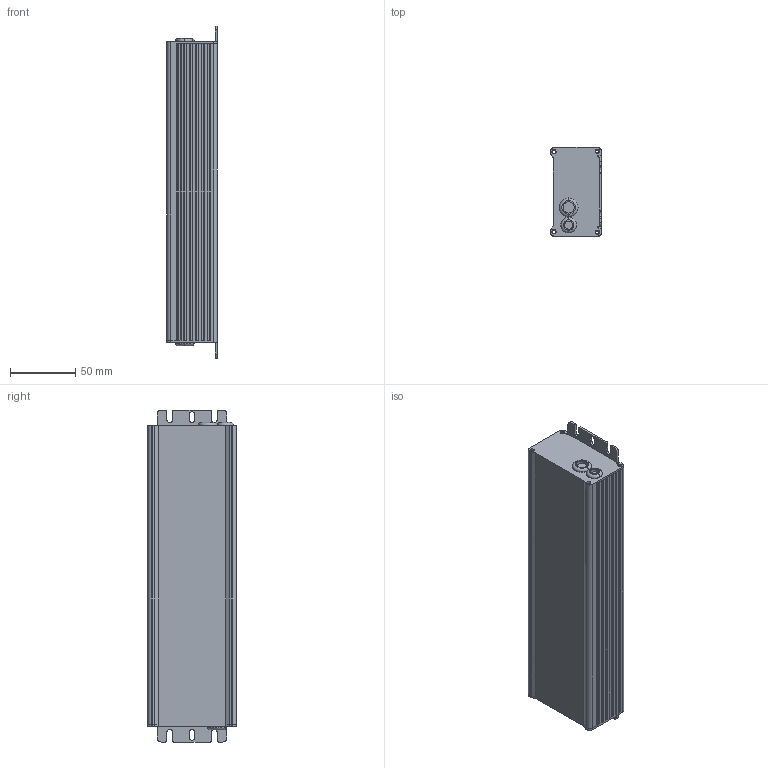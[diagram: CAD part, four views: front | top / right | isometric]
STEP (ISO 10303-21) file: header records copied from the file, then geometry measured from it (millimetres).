
FILE_DESCRIPTION(('Creo Elements/Direct Modeling STEP Export'),'2;1');
FILE_NAME('HVG-240-A.STP','2015-11-25T14:16:54',(''),(''),'PTC Creo Elements/Direct Modeling STEP processor for AP214 (Solid Model)','PTC Creo Elements/Direct Modeling 19.0 09-May-2014 (C) Parametric Technology GmbH','');
FILE_SCHEMA(('AUTOMOTIVE_DESIGN { 1 0 10303 214 1 1 1 1 }'));
Length unit declared in the file: millimetre
Products named in the file (2): CASE.PRT
Assembly tree (1 placements, depth 2):
  CASE.PRT
    CASE.PRT
Bounding box: 38.74 x 68.05 x 254.2 mm (x, y, z)
Volume: 106321.4 mm3; surface area: 119560.8 mm2
Topology: 1 solids, 1 shells, 302 faces, 865 edges, 562 vertices
Faces by surface type: plane 190, cylinder 100, torus 12
Entity records: 9665 total; most frequent: CARTESIAN_POINT 1736, ORIENTED_EDGE 1730, DIRECTION 1579, EDGE_CURVE 865, VECTOR 605, LINE 605, VERTEX_POINT 562, AXIS2_PLACEMENT_3D 487
